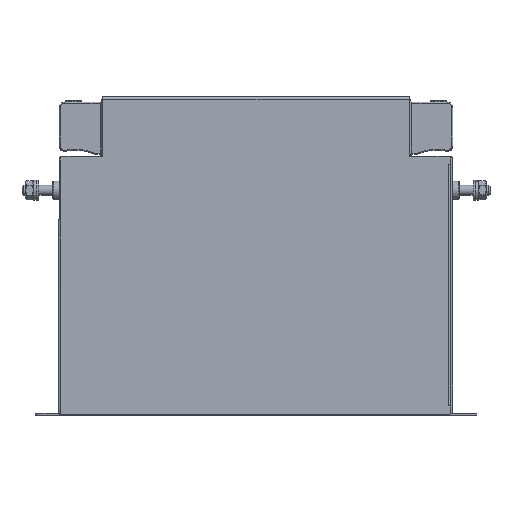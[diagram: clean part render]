
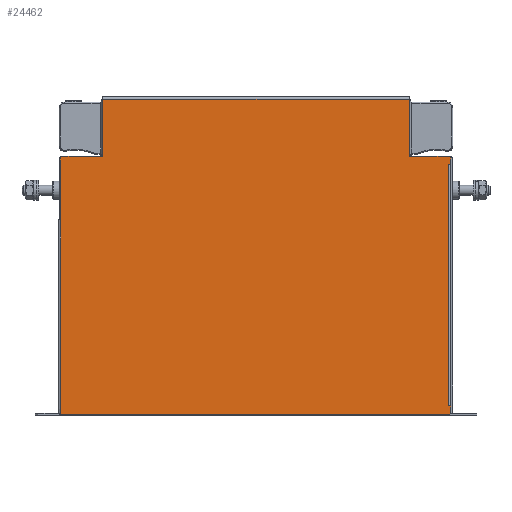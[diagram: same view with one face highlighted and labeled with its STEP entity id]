
A CAD part, top view. The second image highlights one B-rep face of the part: STEP entity #24462.
In plain terms, the highlighted planar face has unit normal (0, 0, 1).
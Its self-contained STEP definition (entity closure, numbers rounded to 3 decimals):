
#2121=FACE_OUTER_BOUND('',#3581,.T.);
#3581=EDGE_LOOP('',(#17078,#17079,#17080,#17081,#17082,#17083,#17084,#17085,
#17086,#17087,#17088,#17089,#17090,#17091,#17092,#17093,#17094,#17095,#17096,
#17097,#17098,#17099,#17100,#17101,#17102,#17103,#17104));
#5455=LINE('',#36817,#7836);
#5461=LINE('',#36830,#7842);
#5463=LINE('',#36835,#7844);
#5472=LINE('',#36854,#7853);
#5485=LINE('',#36885,#7866);
#5487=LINE('',#36891,#7868);
#5491=LINE('',#36900,#7872);
#5497=LINE('',#36911,#7878);
#5498=LINE('',#36913,#7879);
#5500=LINE('',#36918,#7881);
#5504=LINE('',#36925,#7885);
#5507=LINE('',#36931,#7888);
#5518=LINE('',#36959,#7899);
#5522=LINE('',#36978,#7903);
#5523=LINE('',#36982,#7904);
#5529=LINE('',#36993,#7910);
#5530=LINE('',#36995,#7911);
#5532=LINE('',#37000,#7913);
#5537=LINE('',#37010,#7918);
#5551=LINE('',#37046,#7932);
#5554=LINE('',#37052,#7935);
#5559=LINE('',#37062,#7940);
#5560=LINE('',#37064,#7941);
#5584=LINE('',#37110,#7965);
#5585=LINE('',#37112,#7966);
#5609=LINE('',#37158,#7990);
#5613=LINE('',#37165,#7994);
#7836=VECTOR('',#29788,10.);
#7842=VECTOR('',#29796,10.);
#7844=VECTOR('',#29800,10.);
#7853=VECTOR('',#29811,10.);
#7866=VECTOR('',#29842,10.);
#7868=VECTOR('',#29846,10.);
#7872=VECTOR('',#29852,10.);
#7878=VECTOR('',#29860,10.);
#7879=VECTOR('',#29863,10.);
#7881=VECTOR('',#29867,10.);
#7885=VECTOR('',#29873,10.);
#7888=VECTOR('',#29878,10.);
#7899=VECTOR('',#29907,10.);
#7903=VECTOR('',#29925,10.);
#7904=VECTOR('',#29928,10.);
#7910=VECTOR('',#29936,10.);
#7911=VECTOR('',#29939,10.);
#7913=VECTOR('',#29943,10.);
#7918=VECTOR('',#29950,10.);
#7932=VECTOR('',#29982,10.);
#7935=VECTOR('',#29987,10.);
#7940=VECTOR('',#29994,10.);
#7941=VECTOR('',#29997,10.);
#7965=VECTOR('',#30031,10.);
#7966=VECTOR('',#30034,10.);
#7990=VECTOR('',#30076,10.);
#7994=VECTOR('',#30082,10.);
#10138=VERTEX_POINT('',#36811);
#10140=VERTEX_POINT('',#36815);
#10141=VERTEX_POINT('',#36819);
#10146=VERTEX_POINT('',#36828);
#10147=VERTEX_POINT('',#36832);
#10156=VERTEX_POINT('',#36851);
#10157=VERTEX_POINT('',#36853);
#10167=VERTEX_POINT('',#36887);
#10169=VERTEX_POINT('',#36890);
#10172=VERTEX_POINT('',#36898);
#10173=VERTEX_POINT('',#36899);
#10177=VERTEX_POINT('',#36908);
#10178=VERTEX_POINT('',#36916);
#10179=VERTEX_POINT('',#36917);
#10183=VERTEX_POINT('',#36929);
#10196=VERTEX_POINT('',#36971);
#10199=VERTEX_POINT('',#36976);
#10200=VERTEX_POINT('',#36980);
#10201=VERTEX_POINT('',#36981);
#10205=VERTEX_POINT('',#36990);
#10206=VERTEX_POINT('',#36998);
#10207=VERTEX_POINT('',#36999);
#10211=VERTEX_POINT('',#37008);
#10225=VERTEX_POINT('',#37048);
#10228=VERTEX_POINT('',#37055);
#10241=VERTEX_POINT('',#37095);
#10259=VERTEX_POINT('',#37155);
#12574=EDGE_CURVE('',#10140,#10138,#5455,.T.);
#12580=EDGE_CURVE('',#10141,#10146,#5461,.T.);
#12582=EDGE_CURVE('',#10146,#10147,#5463,.T.);
#12591=EDGE_CURVE('',#10157,#10156,#5472,.T.);
#12608=EDGE_CURVE('',#10156,#10141,#5485,.T.);
#12610=EDGE_CURVE('',#10167,#10169,#5487,.T.);
#12614=EDGE_CURVE('',#10172,#10173,#5491,.T.);
#12620=EDGE_CURVE('',#10177,#10172,#5497,.T.);
#12621=EDGE_CURVE('',#10173,#10169,#5498,.T.);
#12623=EDGE_CURVE('',#10178,#10179,#5500,.T.);
#12627=EDGE_CURVE('',#10140,#10178,#5504,.T.);
#12630=EDGE_CURVE('',#10179,#10183,#5507,.T.);
#12645=EDGE_CURVE('',#10183,#10177,#5518,.T.);
#12653=EDGE_CURVE('',#10199,#10196,#5522,.T.);
#12654=EDGE_CURVE('',#10200,#10201,#5523,.T.);
#12660=EDGE_CURVE('',#10205,#10200,#5529,.T.);
#12661=EDGE_CURVE('',#10201,#10196,#5530,.T.);
#12663=EDGE_CURVE('',#10206,#10207,#5532,.T.);
#12668=EDGE_CURVE('',#10207,#10211,#5537,.T.);
#12687=EDGE_CURVE('',#10211,#10205,#5551,.T.);
#12690=EDGE_CURVE('',#10225,#10206,#5554,.T.);
#12695=EDGE_CURVE('',#10228,#10225,#5559,.T.);
#12696=EDGE_CURVE('',#10228,#10147,#5560,.T.);
#12720=EDGE_CURVE('',#10241,#10157,#5584,.T.);
#12721=EDGE_CURVE('',#10241,#10167,#5585,.T.);
#12745=EDGE_CURVE('',#10259,#10199,#5609,.T.);
#12749=EDGE_CURVE('',#10138,#10259,#5613,.T.);
#17078=ORIENTED_EDGE('',*,*,#12749,.F.);
#17079=ORIENTED_EDGE('',*,*,#12574,.F.);
#17080=ORIENTED_EDGE('',*,*,#12627,.T.);
#17081=ORIENTED_EDGE('',*,*,#12623,.T.);
#17082=ORIENTED_EDGE('',*,*,#12630,.T.);
#17083=ORIENTED_EDGE('',*,*,#12645,.T.);
#17084=ORIENTED_EDGE('',*,*,#12620,.T.);
#17085=ORIENTED_EDGE('',*,*,#12614,.T.);
#17086=ORIENTED_EDGE('',*,*,#12621,.T.);
#17087=ORIENTED_EDGE('',*,*,#12610,.F.);
#17088=ORIENTED_EDGE('',*,*,#12721,.F.);
#17089=ORIENTED_EDGE('',*,*,#12720,.T.);
#17090=ORIENTED_EDGE('',*,*,#12591,.T.);
#17091=ORIENTED_EDGE('',*,*,#12608,.T.);
#17092=ORIENTED_EDGE('',*,*,#12580,.T.);
#17093=ORIENTED_EDGE('',*,*,#12582,.T.);
#17094=ORIENTED_EDGE('',*,*,#12696,.F.);
#17095=ORIENTED_EDGE('',*,*,#12695,.T.);
#17096=ORIENTED_EDGE('',*,*,#12690,.T.);
#17097=ORIENTED_EDGE('',*,*,#12663,.T.);
#17098=ORIENTED_EDGE('',*,*,#12668,.T.);
#17099=ORIENTED_EDGE('',*,*,#12687,.T.);
#17100=ORIENTED_EDGE('',*,*,#12660,.T.);
#17101=ORIENTED_EDGE('',*,*,#12654,.T.);
#17102=ORIENTED_EDGE('',*,*,#12661,.T.);
#17103=ORIENTED_EDGE('',*,*,#12653,.F.);
#17104=ORIENTED_EDGE('',*,*,#12745,.F.);
#21957=PLANE('',#26229);
#24462=ADVANCED_FACE('',(#2121),#21957,.T.);
#26229=AXIS2_PLACEMENT_3D('',#37169,#30085,#30086);
#29788=DIRECTION('',(0.,-1.,0.));
#29796=DIRECTION('',(0.,-1.,0.));
#29800=DIRECTION('',(-1.,0.,0.));
#29811=DIRECTION('',(0.,1.,0.));
#29842=DIRECTION('',(-1.,0.,0.));
#29846=DIRECTION('',(0.,-1.,0.));
#29852=DIRECTION('',(0.,1.,0.));
#29860=DIRECTION('',(-1.,0.,0.));
#29863=DIRECTION('',(1.,0.,0.));
#29867=DIRECTION('',(0.,1.,0.));
#29873=DIRECTION('',(-1.,0.,0.));
#29878=DIRECTION('',(1.,0.,0.));
#29907=DIRECTION('',(0.,1.,0.));
#29925=DIRECTION('',(0.,1.,0.));
#29928=DIRECTION('',(0.,-1.,0.));
#29936=DIRECTION('',(1.,0.,0.));
#29939=DIRECTION('',(-1.,0.,0.));
#29943=DIRECTION('',(0.,-1.,0.));
#29950=DIRECTION('',(-1.,0.,0.));
#29982=DIRECTION('',(0.,-1.,0.));
#29987=DIRECTION('',(1.,0.,0.));
#29994=DIRECTION('',(0.,-1.,0.));
#29997=DIRECTION('',(0.707,0.707,0.));
#30031=DIRECTION('',(-1.,0.,0.));
#30034=DIRECTION('',(0.707,-0.707,0.));
#30076=DIRECTION('',(-1.,0.,0.));
#30082=DIRECTION('',(-0.707,-0.707,0.));
#30085=DIRECTION('center_axis',(0.,0.,
1.));
#30086=DIRECTION('ref_axis',(1.,0.,0.));
#36811=CARTESIAN_POINT('',(117.,1.5,29.85));
#36815=CARTESIAN_POINT('',(117.,5.49,29.85));
#36817=CARTESIAN_POINT('',(117.,0.5,29.85));
#36819=CARTESIAN_POINT('',(-92.,189.5,29.85));
#36828=CARTESIAN_POINT('',(-92.,155.3,29.85));
#36830=CARTESIAN_POINT('',(-92.,143.375,29.85));
#36832=CARTESIAN_POINT('',(-116.5,155.3,29.85));
#36835=CARTESIAN_POINT('',(-46.25,155.3,29.85));
#36851=CARTESIAN_POINT('',(92.,189.5,29.85));
#36853=CARTESIAN_POINT('',(92.,155.3,29.85));
#36854=CARTESIAN_POINT('',(92.,125.525,29.85));
#36885=CARTESIAN_POINT('',(45.75,189.5,29.85));
#36887=CARTESIAN_POINT('',(117.,154.3,29.85));
#36890=CARTESIAN_POINT('',(117.,150.31,29.85));
#36891=CARTESIAN_POINT('',(117.,0.5,29.85));
#36898=CARTESIAN_POINT('',(115.49,150.3,29.85));
#36899=CARTESIAN_POINT('',(115.49,150.31,29.85));
#36900=CARTESIAN_POINT('',(115.49,123.025,29.85));
#36908=CARTESIAN_POINT('',(115.5,150.3,29.85));
#36911=CARTESIAN_POINT('',(58.25,150.3,29.85));
#36913=CARTESIAN_POINT('',(57.495,150.31,29.85));
#36916=CARTESIAN_POINT('',(115.49,5.49,29.85));
#36917=CARTESIAN_POINT('',(115.49,5.5,29.85));
#36918=CARTESIAN_POINT('',(115.49,50.62,29.85));
#36925=CARTESIAN_POINT('',(58.25,5.49,29.85));
#36929=CARTESIAN_POINT('',(115.5,5.5,29.85));
#36931=CARTESIAN_POINT('',(57.495,5.5,29.85));
#36959=CARTESIAN_POINT('',(115.5,50.625,29.85));
#36971=CARTESIAN_POINT('',(-118.,0.99,29.85));
#36976=CARTESIAN_POINT('',(-118.,0.5,29.85));
#36978=CARTESIAN_POINT('',(-118.,191.,29.85));
#36980=CARTESIAN_POINT('',(-117.19,1.,29.85));
#36981=CARTESIAN_POINT('',(-117.19,0.99,29.85));
#36982=CARTESIAN_POINT('',(-117.19,48.375,29.85));
#36990=CARTESIAN_POINT('',(-117.2,1.,29.85));
#36993=CARTESIAN_POINT('',(-59.25,1.,29.85));
#36995=CARTESIAN_POINT('',(-58.845,0.99,29.85));
#36998=CARTESIAN_POINT('',(-117.19,117.11,29.85));
#36999=CARTESIAN_POINT('',(-117.19,117.1,29.85));
#37000=CARTESIAN_POINT('',(-117.19,106.43,29.85));
#37008=CARTESIAN_POINT('',(-117.2,117.1,29.85));
#37010=CARTESIAN_POINT('',(-58.845,117.1,29.85));
#37046=CARTESIAN_POINT('',(-117.2,106.425,29.85));
#37048=CARTESIAN_POINT('',(-117.5,117.11,29.85));
#37052=CARTESIAN_POINT('',(-59.25,117.11,29.85));
#37055=CARTESIAN_POINT('',(-117.5,154.3,29.85));
#37062=CARTESIAN_POINT('',(-117.5,115.977,29.85));
#37064=CARTESIAN_POINT('',(-102.638,169.162,29.85));
#37095=CARTESIAN_POINT('',(116.,155.3,29.85));
#37110=CARTESIAN_POINT('',(58.25,155.3,29.85));
#37112=CARTESIAN_POINT('',(102.012,169.287,29.85));
#37155=CARTESIAN_POINT('',(116.,0.5,29.85));
#37158=CARTESIAN_POINT('',(-118.,0.5,29.85));
#37165=CARTESIAN_POINT('',(110.937,-4.563,29.85));
#37169=CARTESIAN_POINT('Origin',(-0.5,95.75,29.85));
